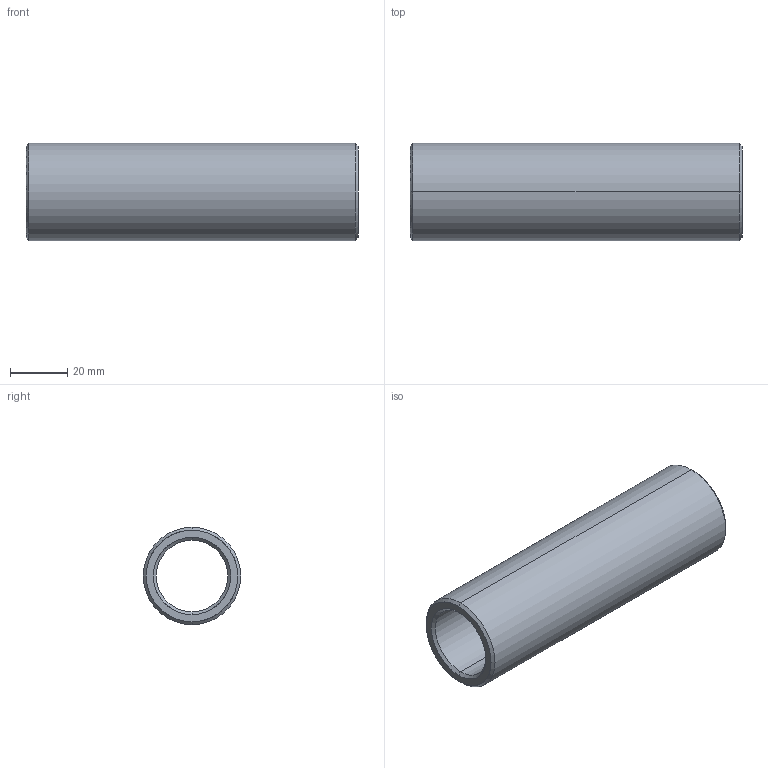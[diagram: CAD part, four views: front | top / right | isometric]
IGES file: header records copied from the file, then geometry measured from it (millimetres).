
Start section: START RECORD GO HERE.
Global section: file name: 352-25X116.igs; native system: DASSAULT SYSTEMES CATIA V5 R20 - www.3ds.com; preprocessor: CATIA Version 5 Release 20 ; author: Utente; organization: NB04-ASUS; date: 20210414.170531; units: millimetre
Bounding box: 116 x 34 x 34 mm (x, y, z)
Surface area: 22129.4 mm2 (no closed solid volume)
Topology: 0 solids, 0 shells, 14 faces, 88 edges, 88 vertices
Faces by surface type: revolution 12, plane 2
